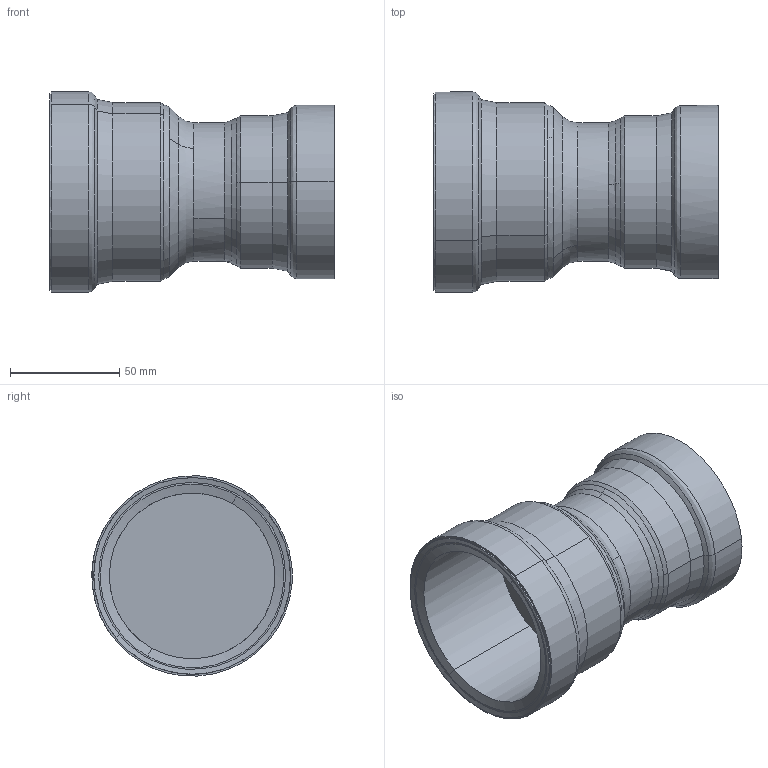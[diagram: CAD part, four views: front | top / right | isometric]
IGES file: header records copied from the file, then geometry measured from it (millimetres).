
Start section: 3D InterOp IGES (Version 25 0 1), Spatial Corp. Copyright (c) 1999-2007.
Global section: file name: pim0004401.igs; native system: Spatial Corp.; preprocessor: 3D InterOp ACIS/IGES; author: Cad-Pim; organization: TransMagic, Inc.; date: 20150430.064442; units: millimetre
Bounding box: 130.35 x 91.87 x 91.8 mm (x, y, z)
Volume: 248247.1 mm3; surface area: 65161.7 mm2
Topology: 1 solids, 1 shells, 53 faces, 144 edges, 96 vertices
Faces by surface type: cone 20, bspline 17, cylinder 16
